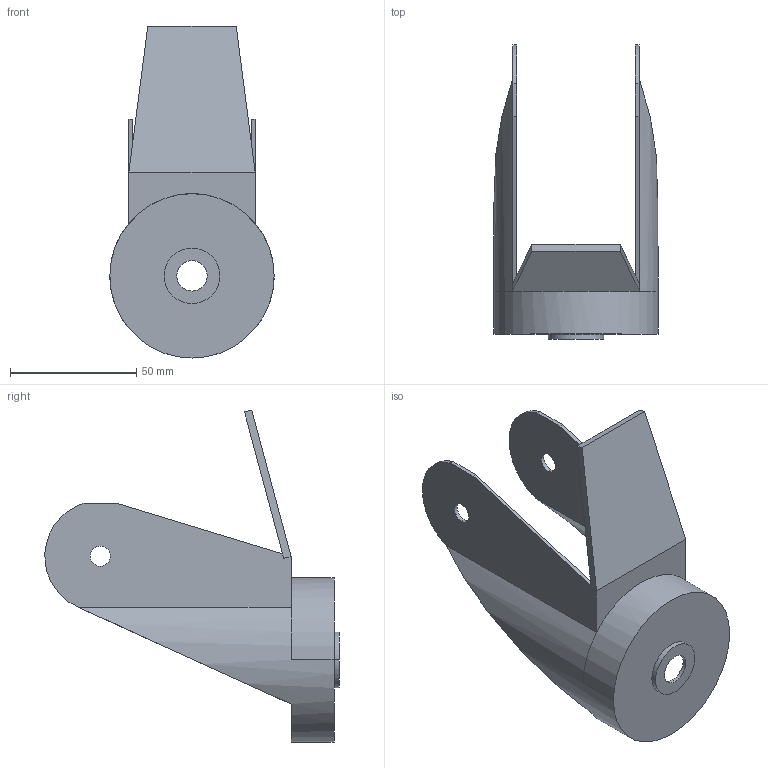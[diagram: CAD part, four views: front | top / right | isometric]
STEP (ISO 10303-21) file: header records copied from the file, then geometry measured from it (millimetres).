
FILE_DESCRIPTION((''),'2;1');
FILE_NAME('RUP125_3','2002-12-27T',('Lipro doo'),('Lipro d.o.o.'),'PRO/ENGINEER BY PARAMETRIC TECHNOLOGY CORPORATION, 2001150','PRO/ENGINEER BY PARAMETRIC TECHNOLOGY CORPORATION, 2001150','');
FILE_SCHEMA(('CONFIG_CONTROL_DESIGN'));
Length unit declared in the file: millimetre
Products named in the file (1): RUP125_3
Bounding box: 65 x 116.41 x 131.36 mm (x, y, z)
Volume: 32572.7 mm3; surface area: 39911 mm2
Topology: 1 solids, 1 shells, 41 faces, 106 edges, 69 vertices
Faces by surface type: plane 25, cylinder 16
Entity records: 1325 total; most frequent: CARTESIAN_POINT 248, DIRECTION 217, ORIENTED_EDGE 212, EDGE_CURVE 106, AXIS2_PLACEMENT_3D 76, VERTEX_POINT 69, VECTOR 65, LINE 65
